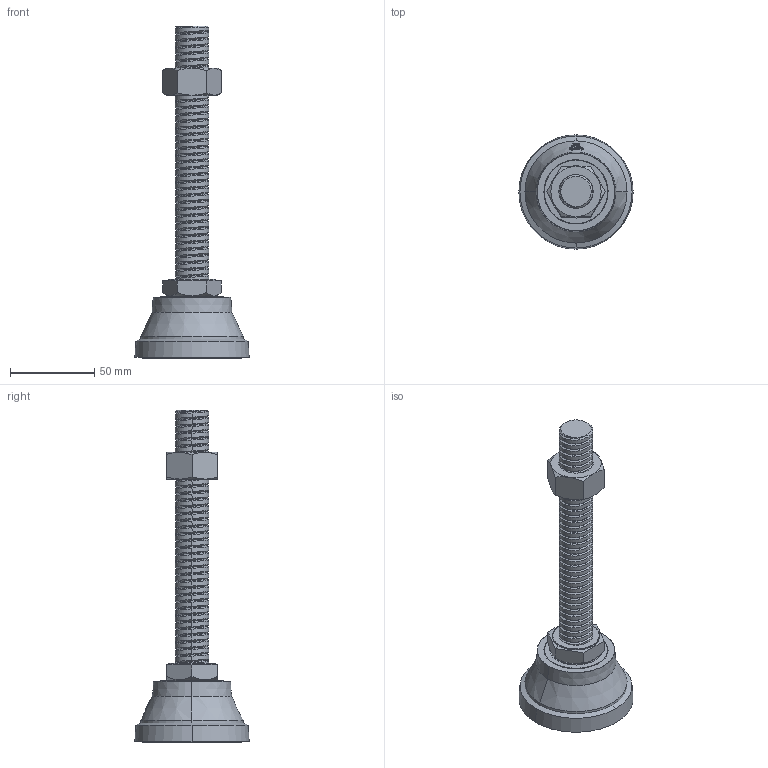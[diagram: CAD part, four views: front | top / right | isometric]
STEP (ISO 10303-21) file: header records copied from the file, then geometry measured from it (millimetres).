
FILE_DESCRIPTION (( 'STEP AP203' ), '1' );
FILE_NAME ('F-100-1-20-L.STEP', '2015-11-24T00:58:55', ( '' ), ( '' ), 'SwSTEP 2.0', 'SolidWorks 2014', '' );
FILE_SCHEMA (( 'CONFIG_CONTROL_DESIGN' ));
Length unit declared in the file: millimetre
Products named in the file (5): 65圓腳座-5-1; DT-M20X150L-12調整螺絲-1; M20螺帽-2-1; 65橡膠止滑墊-3-1; F-100-1-20-L
Assembly tree (4 placements, depth 2):
  F-100-1-20-L
    65圓腳座-5-1
    DT-M20X150L-12調整螺絲-1
    M20螺帽-2-1
    65橡膠止滑墊-3-1
Bounding box: 67.72 x 67.72 x 196.6 mm (x, y, z)
Volume: 80223.5 mm3; surface area: 46804.3 mm2
Topology: 4 solids, 290 shells, 520 faces, 2097 edges, 1866 vertices
Faces by surface type: bspline 240, cylinder 114, cone 94, plane 72
Entity records: 38623 total; most frequent: CARTESIAN_POINT 24244, ORIENTED_EDGE 2660, EDGE_CURVE 2077, VERTEX_POINT 1866, DIRECTION 1774, B_SPLINE_CURVE_WITH_KNOTS 872, LINE 742, VECTOR 742
